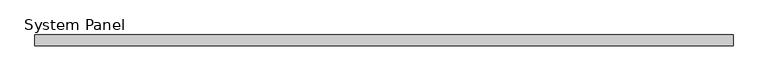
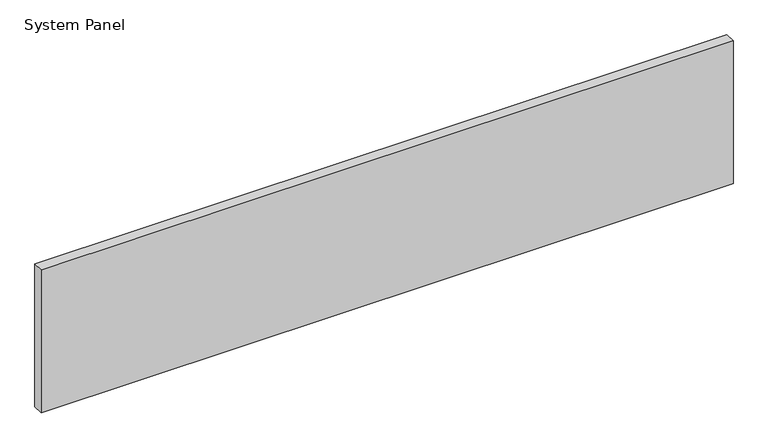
"""IFC4 building model written with IfcOpenShell, lengths in millimetres: plate geometry, System Panel : Glazed - ACMP (AL-1)."""

from ifc_helpers import new_model, si_unit, origin, origin_with_axes, place, context, project, spatial, polyline, outline, extrude, source, transform, mapped, element, save


def system_panel_9067e7c7(model_context):
    return source(origin(), model_context, "Body", "SweptSolid", [
        extrude(outline(polyline([(828.675, 0.0), (-828.675, 0.0), (-828.675, 25.4), (828.675, 25.4), (828.675, 0.0)])), origin_with_axes(), (0.0, 0.0, 1.0), 361.95),
    ])


if __name__ == "__main__":
    model = new_model("IFC4")
    model_context = context("Model", 3, world=origin())
    ifc_project = project(units=[si_unit("LENGTHUNIT", "METRE", prefix="MILLI")], contexts=[model_context])
    site = spatial("IfcSite", under=ifc_project)
    building = spatial("IfcBuilding", under=site)
    placement = place(None, origin())
    system_panel_shape = system_panel_9067e7c7(model_context)
    element("IfcPlate", 1, ObjectType="System Panel : Glazed - ACMP (AL-1)", at=placement, inside=building, context=model_context, shape_type="MappedRepresentation", body=[
        mapped(system_panel_shape, transform((0.0, 0.0, 0.0), x_axis=(1.0, 0.0, 0.0), y_axis=(0.0, 1.0, 0.0), z_axis=(0.0, 0.0, 1.0))),
    ])
    save(model, "model.ifc")
